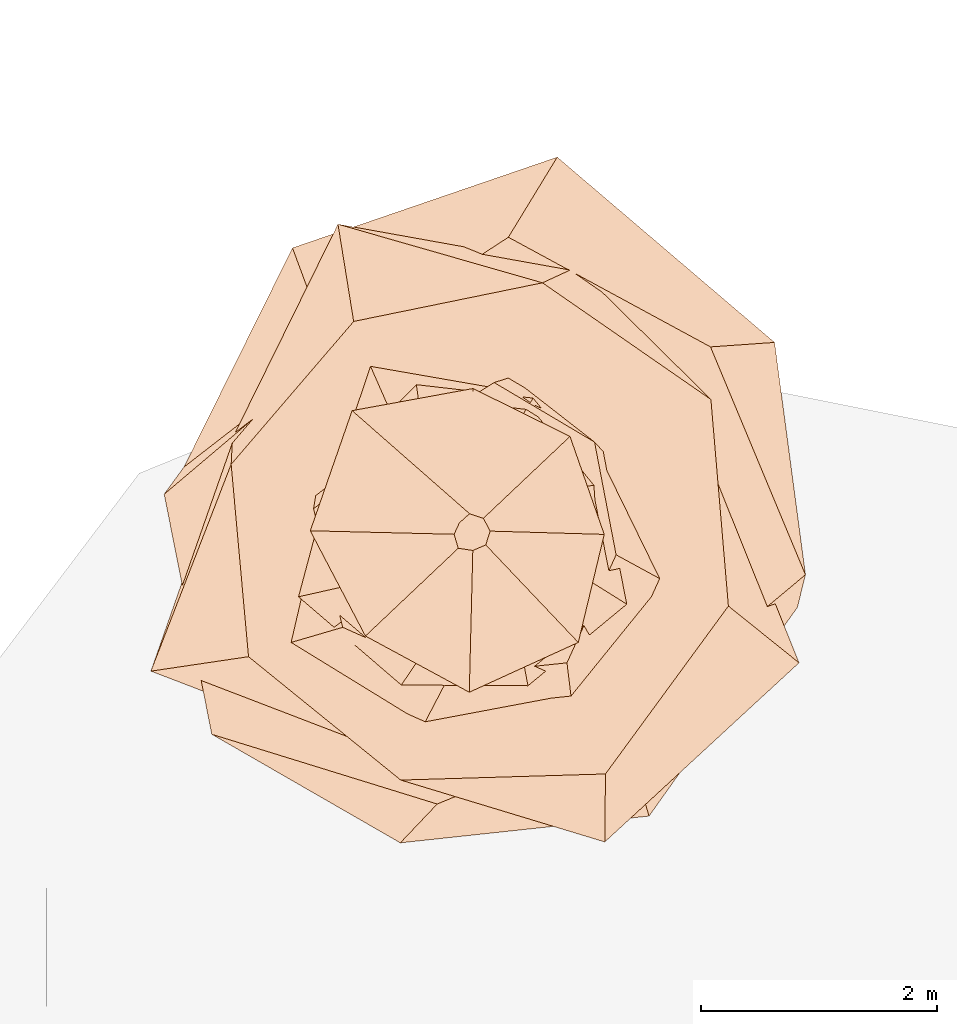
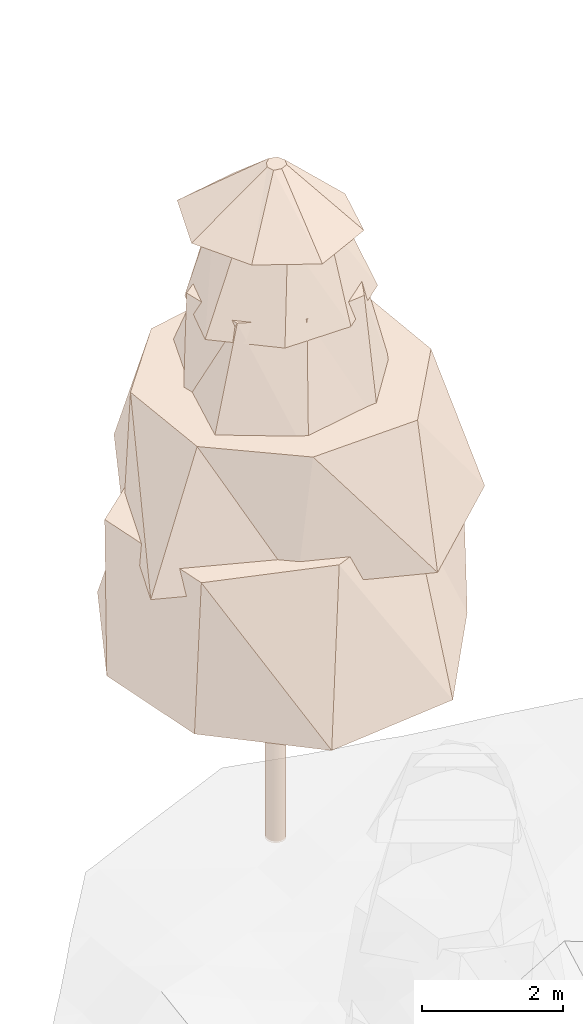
# Not in any storey, part 46 of 88: 1 geographic element.
"""IFC4 model written with IfcOpenShell, lengths in metres."""

import ifcopenshell
import ifcopenshell.guid

model = None  # the IFC model being written
_history = None  # IfcOwnerHistory: only IFC2X3 demands one
_inside = {}  # id of a spatial element -> (the spatial element, [elements in it])
_under = {}  # id of a project, library or spatial element -> (it, [spatial elements below it])
_declared = {}  # id of a project -> (the project, [libraries it declares])
_typed = {}  # id of a type object -> (the type object, [elements of that type])
_made_of = {}  # id of a material, layer set ... -> (it, [elements and type objects made of it])


def new_model(schema):
    """Start an empty IFC model of exactly this schema.

    Asked for "IFC4X3", IfcOpenShell would pick the latest addendum, in which some entities
    have other attributes; the version numbers below select the first issue.
    IFC2X3 requires an IfcOwnerHistory on every rooted entity: one is made here for all.
    """
    global model, _history
    if schema == "IFC4X3":
        model = ifcopenshell.file(schema_version=(4, 3, 0, 0))
    else:
        model = ifcopenshell.file(schema=schema)
    _inside.clear()
    _under.clear()
    _declared.clear()
    _typed.clear()
    _made_of.clear()
    _history = None
    if model.schema == "IFC2X3":
        org = make("IfcOrganization", Name="unknown")
        user = make(
            "IfcPersonAndOrganization",
            ThePerson=make("IfcPerson", FamilyName="unknown"),
            TheOrganization=org,
        )
        app = make(
            "IfcApplication",
            ApplicationDeveloper=org,
            Version="unknown",
            ApplicationFullName="unknown",
            ApplicationIdentifier="unknown",
        )
        _history = make(
            "IfcOwnerHistory",
            OwningUser=user,
            OwningApplication=app,
            ChangeAction="ADDED",
            CreationDate=0,
        )
    return model


def make(cls, **values):
    """One entity of the class cls with the attributes given. An attribute that is None is left unset."""
    return model.create_entity(
        cls, **{name: value for name, value in values.items() if value is not None}
    )


def rooted(cls, **values):
    """An entity with a GlobalId (a new one), such as an element, a storey or a relation."""
    return make(cls, GlobalId=ifcopenshell.guid.new(), OwnerHistory=_history, **values)


def si_unit(unit_type, name, prefix=None):
    """IfcSIUnit, for example si_unit("LENGTHUNIT", "METRE", prefix="MILLI")."""
    return make("IfcSIUnit", UnitType=unit_type, Prefix=prefix, Name=name)


def assignment(units):
    """IfcUnitAssignment: the units of a project."""
    return None if units is None else make("IfcUnitAssignment", Units=units)


def point(xyz):
    """IfcCartesianPoint."""
    return None if xyz is None else make("IfcCartesianPoint", Coordinates=xyz)


def direction(xyz):
    """IfcDirection."""
    return None if xyz is None else make("IfcDirection", DirectionRatios=xyz)


def frame(location, z_axis=None, x_axis=None):
    """IfcAxis2Placement3D, a coordinate frame: its origin and axes. An axis left out is left unset."""
    return make(
        "IfcAxis2Placement3D",
        Location=point(location),
        Axis=direction(z_axis),
        RefDirection=direction(x_axis),
    )


def origin_with_axes():
    """The frame at (0, 0, 0) with the z axis (0, 0, 1) and the x axis (1, 0, 0) written out."""
    return frame((0.0, 0.0, 0.0), z_axis=(0.0, 0.0, 1.0), x_axis=(1.0, 0.0, 0.0))


def place(relative_to, where):
    """IfcLocalPlacement: puts the frame where relative to a parent placement (None: the world)."""
    return make(
        "IfcLocalPlacement", PlacementRelTo=relative_to, RelativePlacement=where
    )


def context(
    kind, dimensions, precision=None, world=None, true_north=None, identifier=None
):
    """IfcGeometricRepresentationContext, for example the 3D "Model" context."""
    return make(
        "IfcGeometricRepresentationContext",
        ContextIdentifier=identifier,
        ContextType=kind,
        CoordinateSpaceDimension=dimensions,
        Precision=precision,
        WorldCoordinateSystem=world,
        TrueNorth=true_north,
    )


def subcontext(parent, identifier, kind, view, scale=None):
    """IfcGeometricRepresentationSubContext, for example "Body" below "Model"."""
    return make(
        "IfcGeometricRepresentationSubContext",
        ContextIdentifier=identifier,
        ContextType=kind,
        ParentContext=parent,
        TargetScale=scale,
        TargetView=view,
    )


def project(units=None, contexts=None):
    """IfcProject with its units and contexts."""
    return rooted(
        "IfcProject",
        Name="project",
        RepresentationContexts=contexts,
        UnitsInContext=assignment(units),
    )


def spatial(cls, under=None, at=None, **own):
    """A site, building, storey or space (cls), placed at a placement, below another one or the project."""
    s = rooted(cls, ObjectPlacement=at, **own)
    if under is not None:
        _under.setdefault(under.id(), (under, []))[1].append(s)
    return s


def profile(cls, at=None, kind="AREA", **sizes):
    """A parametric profile (cls). Its sizes go by their IFC names, for example OverallWidth=200.0."""
    return make(cls, ProfileType=kind, Position=at, **sizes)


def circle(**sizes):
    """IfcCircleProfileDef."""
    return profile("IfcCircleProfileDef", **sizes)


def extrude(swept, where, along, depth):
    """IfcExtrudedAreaSolid: the profile swept, set in the frame where, extruded along a direction by depth."""
    return make(
        "IfcExtrudedAreaSolid",
        SweptArea=swept,
        Position=where,
        ExtrudedDirection=direction(along),
        Depth=depth,
    )


def faces_of(points, faces, orient=None, outer=None):
    """IfcFace entities. A face is a list of loops; a loop is a list of indices into points, from 0.

    orient and outer hold one flag for each loop. By default every Orientation is true, the
    first loop of a face is its IfcFaceOuterBound and the others are IfcFaceBound.
    """
    made = []
    for i, loops in enumerate(faces):
        bounds = []
        for j, loop in enumerate(loops):
            is_outer = j == 0 if outer is None else outer[i][j]
            bounds.append(
                make(
                    "IfcFaceOuterBound" if is_outer else "IfcFaceBound",
                    Bound=make("IfcPolyLoop", Polygon=[points[k] for k in loop]),
                    Orientation=True if orient is None else orient[i][j],
                )
            )
        made.append(make("IfcFace", Bounds=bounds))
    return made


def faceted_brep(points, faces, orient=None, outer=None, voids=None):
    """IfcFacetedBrep: a solid bounded by flat faces; with voids (closed shells), ...WithVoids."""
    shared = [point(p) for p in points]
    hull = make("IfcClosedShell", CfsFaces=faces_of(shared, faces, orient, outer))
    if voids is None:
        return make("IfcFacetedBrep", Outer=hull)
    return make(
        "IfcFacetedBrepWithVoids",
        Outer=hull,
        Voids=[
            make(cls, CfsFaces=faces_of(shared, fs, o, b)) for cls, fs, o, b in voids
        ],
    )


def shape(context_of_items, identifier, shape_type, items):
    """IfcShapeRepresentation: the items that make up one representation, for example the "Body"."""
    return make(
        "IfcShapeRepresentation",
        ContextOfItems=context_of_items,
        RepresentationIdentifier=identifier,
        RepresentationType=shape_type,
        Items=items,
    )


def made_of(thing, what):
    """Note that an element or type object is made of a material, layer set ...; save() writes the relation."""
    if what is not None:
        _made_of.setdefault(what.id(), (what, []))[1].append(thing)
    return thing


def element(
    cls,
    number,
    at=None,
    inside=None,
    cuts=None,
    type_object=None,
    material=None,
    context=None,
    identifier="Body",
    shape_type=None,
    held_by="IfcProductDefinitionShape",
    body=None,
    shapes=None,
    **own,
):
    """One element of the class cls, such as IfcWall. Its Tag is "e" and its number.

    at: its placement. inside: the storey or other place that contains it. cuts: it is an
    opening in that element (IfcRelVoidsElement). A single representation is given by context,
    identifier, shape_type and body (its items); several are given by shapes. held_by: the class
    of the entity that holds the representations. save() writes the other relations.
    """
    e = rooted(cls, Tag="e%d" % number, ObjectPlacement=at, **own)
    if body is not None:
        shapes = [shape(context, identifier, shape_type, body)]
    if shapes is not None:
        e.Representation = make(held_by, Representations=shapes)
    if inside is not None:
        _inside.setdefault(inside.id(), (inside, []))[1].append(e)
    if cuts is not None:
        rooted(
            "IfcRelVoidsElement", RelatingBuildingElement=cuts, RelatedOpeningElement=e
        )
    if type_object is not None:
        _typed.setdefault(type_object.id(), (type_object, []))[1].append(e)
    return made_of(e, material)


def aggregate(whole, parts):
    """IfcRelAggregates: a whole, such as a stair, and the parts it consists of."""
    return rooted("IfcRelAggregates", RelatingObject=whole, RelatedObjects=parts)


def save(model, path):
    """Write the relations noted so far, then the file.

    IfcRelAggregates (storeys below a building ...), IfcRelContainedInSpatialStructure (elements
    in a storey), IfcRelDefinesByType, IfcRelAssociatesMaterial and IfcRelDeclares: one each for
    every whole, place, type object, material and project.
    """
    for whole, parts in _under.values():
        aggregate(whole, parts)
    for where, things in _inside.values():
        rooted(
            "IfcRelContainedInSpatialStructure",
            RelatedElements=things,
            RelatingStructure=where,
        )
    for kind, things in _typed.values():
        rooted("IfcRelDefinesByType", RelatedObjects=things, RelatingType=kind)
    for what, things in _made_of.values():
        rooted("IfcRelAssociatesMaterial", RelatedObjects=things, RelatingMaterial=what)
    for by, libraries in _declared.values():
        rooted("IfcRelDeclares", RelatingContext=by, RelatedDefinitions=libraries)
    model.write(path)


model = new_model("IFC4")

# Units and contexts
model_context = context("Model", 3, precision=1e-05, world=origin_with_axes())
body_context = subcontext(model_context, "Body", "Model", "MODEL_VIEW")
ifc_project = project(units=[si_unit("LENGTHUNIT", "METRE"), si_unit("AREAUNIT", "SQUARE_METRE"), si_unit("VOLUMEUNIT", "CUBIC_METRE"), si_unit("PLANEANGLEUNIT", "RADIAN")], contexts=[model_context])

# Sites
site_1_placement = place(None, origin_with_axes())
site_1 = spatial("IfcSite", under=ifc_project, at=site_1_placement, Name="CH907857693633", CompositionType="ELEMENT")
site_2_placement = place(None, origin_with_axes())
site_2 = spatial("IfcSite", under=site_1, at=site_2_placement, Name="Simulated_forest", CompositionType="ELEMENT")

# Geographic element
geographic_element_placement = place(None, frame((119.601188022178, 110.012706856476, 7.8746337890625), z_axis=(0.0, 0.0, 1.0), x_axis=(1.0, 0.0, 0.0)))
element("IfcGeographicElement", 1, at=geographic_element_placement, inside=site_2, Name="Tree_SIMULATED_WOODED_AREA", ObjectType="VEGETATION", PredefinedType="USERDEFINED", context=body_context, shape_type="Brep", body=[
    extrude(circle(Radius=0.15), origin_with_axes(), (0.0, 0.0, 1.0), 3.29238402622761),
    faceted_brep([(2.763879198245, -0.632404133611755, 3.29238402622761), (1.50688790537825, -2.4010688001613, 3.29238402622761), (-0.601325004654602, -2.62804998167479, 3.29238402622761), (-2.07714371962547, -1.3035956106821, 3.29238402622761), (-2.43481941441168, 0.557111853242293, 3.29238402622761), (-1.51513915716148, 2.41421630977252, 3.29238402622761), (0.728393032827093, 3.18339214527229, 3.29238402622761), (2.57036986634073, 1.61313964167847, 3.29238402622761), (2.02770267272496, 1.57520497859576, 6.18990870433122), (0.314552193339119, 2.50454868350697, 6.18990870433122), (-1.18526709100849, 1.5257501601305, 6.18990870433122), (-2.60237983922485, 0.326839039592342, 6.18990870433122), (-2.19876782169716, -1.70809560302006, 6.18990870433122), (-0.288734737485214, -2.29898319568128, 6.18990870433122), (1.28214560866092, -1.65045826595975, 6.18990870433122), (2.83228943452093, -0.355713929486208, 6.18990870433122), (2.57036986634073, 1.61313964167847, 3.29238402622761), (0.728393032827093, 3.18339214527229, 3.29238402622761), (0.314552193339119, 2.50454868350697, 6.18990870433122), (2.02770267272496, 1.57520497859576, 6.18990870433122), (0.728393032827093, 3.18339214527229, 3.29238402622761), (-1.51513915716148, 2.41421630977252, 3.29238402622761), (-1.18526709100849, 1.5257501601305, 6.18990870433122), (0.314552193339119, 2.50454868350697, 6.18990870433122), (-1.51513915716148, 2.41421630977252, 3.29238402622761), (-2.43481941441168, 0.557111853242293, 3.29238402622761), (-2.60237983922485, 0.326839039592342, 6.18990870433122), (-1.18526709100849, 1.5257501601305, 6.18990870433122), (-2.43481941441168, 0.557111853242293, 3.29238402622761), (-2.07714371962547, -1.3035956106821, 3.29238402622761), (-2.19876782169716, -1.70809560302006, 6.18990870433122), (-2.60237983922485, 0.326839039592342, 6.18990870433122), (-2.07714371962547, -1.3035956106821, 3.29238402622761), (-0.601325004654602, -2.62804998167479, 3.29238402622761), (-0.288734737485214, -2.29898319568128, 6.18990870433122), (-2.19876782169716, -1.70809560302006, 6.18990870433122), (-0.601325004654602, -2.62804998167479, 3.29238402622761), (1.50688790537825, -2.4010688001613, 3.29238402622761), (1.28214560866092, -1.65045826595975, 6.18990870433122), (-0.288734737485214, -2.29898319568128, 6.18990870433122), (1.50688790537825, -2.4010688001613, 3.29238402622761), (2.763879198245, -0.632404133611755, 3.29238402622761), (2.83228943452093, -0.355713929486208, 6.18990870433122), (1.28214560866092, -1.65045826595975, 6.18990870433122), (2.763879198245, -0.632404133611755, 3.29238402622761), (2.57036986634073, 1.61313964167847, 3.29238402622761), (2.02770267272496, 1.57520497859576, 6.18990870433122), (2.83228943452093, -0.355713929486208, 6.18990870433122)], [[[0, 1, 2, 3, 4, 5, 6, 7]], [[8, 9, 10, 11, 12, 13, 14, 15]], [[16, 17, 18, 19]], [[20, 21, 22, 23]], [[24, 25, 26, 27]], [[28, 29, 30, 31]], [[32, 33, 34, 35]], [[36, 37, 38, 39]], [[40, 41, 42, 43]], [[44, 45, 46, 47]]]),
    faceted_brep([(2.77778323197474, -1.10196685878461, 5.75528000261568), (1.13186404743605, -2.62042411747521, 5.75528000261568), (-0.762427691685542, -1.92188979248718, 5.75528000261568), (-2.71495404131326, -1.17269523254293, 5.75528000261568), (-2.02285670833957, 0.802482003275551, 5.75528000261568), (-1.12951282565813, 2.61498070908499, 5.75528000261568), (0.893366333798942, 2.2519534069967, 5.75528000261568), (1.99007604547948, 0.859591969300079, 5.75528000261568), (2.03087915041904, 1.12995454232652, 8.03406446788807), (0.603756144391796, 2.11823802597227, 8.03406446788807), (-0.996509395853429, 1.79103678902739, 8.03406446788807), (-2.03496234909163, 0.580020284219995, 8.03406446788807), (-1.88767955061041, -1.0502801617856, 8.03406446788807), (-0.597410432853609, -2.09597452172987, 8.03406446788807), (1.1373490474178, -2.04416937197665, 8.03406446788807), (2.17924316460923, -0.621144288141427, 8.03406446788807), (1.99007604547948, 0.859591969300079, 5.75528000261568), (0.893366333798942, 2.2519534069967, 5.75528000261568), (0.603756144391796, 2.11823802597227, 8.03406446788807), (2.03087915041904, 1.12995454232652, 8.03406446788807), (0.893366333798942, 2.2519534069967, 5.75528000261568), (-1.12951282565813, 2.61498070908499, 5.75528000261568), (-0.996509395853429, 1.79103678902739, 8.03406446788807), (0.603756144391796, 2.11823802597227, 8.03406446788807), (-1.12951282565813, 2.61498070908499, 5.75528000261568), (-2.02285670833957, 0.802482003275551, 5.75528000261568), (-2.03496234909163, 0.580020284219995, 8.03406446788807), (-0.996509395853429, 1.79103678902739, 8.03406446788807), (-2.02285670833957, 0.802482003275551, 5.75528000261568), (-2.71495404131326, -1.17269523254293, 5.75528000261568), (-1.88767955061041, -1.0502801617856, 8.03406446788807), (-2.03496234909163, 0.580020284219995, 8.03406446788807), (-2.71495404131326, -1.17269523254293, 5.75528000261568), (-0.762427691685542, -1.92188979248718, 5.75528000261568), (-0.597410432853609, -2.09597452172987, 8.03406446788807), (-1.88767955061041, -1.0502801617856, 8.03406446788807), (-0.762427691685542, -1.92188979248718, 5.75528000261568), (1.13186404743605, -2.62042411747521, 5.75528000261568), (1.1373490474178, -2.04416937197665, 8.03406446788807), (-0.597410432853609, -2.09597452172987, 8.03406446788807), (1.13186404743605, -2.62042411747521, 5.75528000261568), (2.77778323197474, -1.10196685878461, 5.75528000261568), (2.17924316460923, -0.621144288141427, 8.03406446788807), (1.1373490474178, -2.04416937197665, 8.03406446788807), (2.77778323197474, -1.10196685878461, 5.75528000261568), (1.99007604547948, 0.859591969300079, 5.75528000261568), (2.03087915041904, 1.12995454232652, 8.03406446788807), (2.17924316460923, -0.621144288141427, 8.03406446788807)], [[[0, 1, 2, 3, 4, 5, 6, 7]], [[8, 9, 10, 11, 12, 13, 14, 15]], [[16, 17, 18, 19]], [[20, 21, 22, 23]], [[24, 25, 26, 27]], [[28, 29, 30, 31]], [[32, 33, 34, 35]], [[36, 37, 38, 39]], [[40, 41, 42, 43]], [[44, 45, 46, 47]]]),
    faceted_brep([(1.67113982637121, -0.428743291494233, 7.69224679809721), (0.852333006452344, -1.44060261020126, 7.69224679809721), (-0.431498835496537, -1.68188028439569, 7.69224679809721), (-1.61472759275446, -0.955354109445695, 7.69224679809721), (-1.31453218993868, 0.337252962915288, 7.69224679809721), (-0.908647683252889, 1.53578497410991, 7.69224679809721), (0.338330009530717, 1.31873026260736, 7.69224679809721), (1.13371868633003, 0.670765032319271, 7.69224679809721), (1.04494101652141, 0.768716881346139, 9.73072963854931), (0.193891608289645, 1.27307140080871, 9.73072963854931), (-0.579699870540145, 0.788004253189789, 9.73072963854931), (-1.336769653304, 0.203592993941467, 9.73072963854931), (-1.08931655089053, -0.801361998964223, 9.73072963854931), (-0.183761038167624, -1.20655516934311, 9.73072963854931), (0.81109314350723, -1.10254440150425, 9.73072963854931), (1.22768380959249, -0.186978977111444, 9.73072963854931), (1.13371868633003, 0.670765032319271, 7.69224679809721), (0.338330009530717, 1.31873026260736, 7.69224679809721), (0.193891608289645, 1.27307140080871, 9.73072963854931), (1.04494101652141, 0.768716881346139, 9.73072963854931), (0.338330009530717, 1.31873026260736, 7.69224679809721), (-0.908647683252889, 1.53578497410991, 7.69224679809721), (-0.579699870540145, 0.788004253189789, 9.73072963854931), (0.193891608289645, 1.27307140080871, 9.73072963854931), (-0.908647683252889, 1.53578497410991, 7.69224679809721), (-1.31453218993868, 0.337252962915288, 7.69224679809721), (-1.336769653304, 0.203592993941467, 9.73072963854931), (-0.579699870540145, 0.788004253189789, 9.73072963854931), (-1.31453218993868, 0.337252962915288, 7.69224679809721), (-1.61472759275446, -0.955354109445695, 7.69224679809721), (-1.08931655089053, -0.801361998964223, 9.73072963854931), (-1.336769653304, 0.203592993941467, 9.73072963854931), (-1.61472759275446, -0.955354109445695, 7.69224679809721), (-0.431498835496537, -1.68188028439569, 7.69224679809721), (-0.183761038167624, -1.20655516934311, 9.73072963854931), (-1.08931655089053, -0.801361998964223, 9.73072963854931), (-0.431498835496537, -1.68188028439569, 7.69224679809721), (0.852333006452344, -1.44060261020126, 7.69224679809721), (0.81109314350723, -1.10254440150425, 9.73072963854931), (-0.183761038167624, -1.20655516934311, 9.73072963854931), (0.852333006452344, -1.44060261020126, 7.69224679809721), (1.67113982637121, -0.428743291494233, 7.69224679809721), (1.22768380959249, -0.186978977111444, 9.73072963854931), (0.81109314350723, -1.10254440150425, 9.73072963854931), (1.67113982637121, -0.428743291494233, 7.69224679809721), (1.13371868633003, 0.670765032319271, 7.69224679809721), (1.04494101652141, 0.768716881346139, 9.73072963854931), (1.22768380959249, -0.186978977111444, 9.73072963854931)], [[[0, 1, 2, 3, 4, 5, 6, 7]], [[8, 9, 10, 11, 12, 13, 14, 15]], [[16, 17, 18, 19]], [[20, 21, 22, 23]], [[24, 25, 26, 27]], [[28, 29, 30, 31]], [[32, 33, 34, 35]], [[36, 37, 38, 39]], [[40, 41, 42, 43]], [[44, 45, 46, 47]]]),
    faceted_brep([(1.31806095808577, -0.605219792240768, 9.42495721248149), (0.480577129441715, -1.29662088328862, 9.42495721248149), (-0.592446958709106, -1.29024400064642, 9.42495721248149), (-1.46378540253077, -0.542534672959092, 9.42495721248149), (-1.17422510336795, 0.539174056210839, 9.42495721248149), (-0.465178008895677, 1.25507329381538, 9.42495721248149), (0.523993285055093, 1.14116408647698, 9.42495721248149), (1.11703706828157, 0.414016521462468, 9.42495721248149), (0.730735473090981, 0.35744930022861, 10.9408243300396), (0.229111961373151, 0.667895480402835, 10.9408243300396), (-0.405091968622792, 0.828131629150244, 10.9408243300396), (-0.839402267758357, 0.287944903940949, 10.9408243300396), (-0.809349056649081, -0.395904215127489, 10.9408243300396), (-0.288847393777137, -0.842033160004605, 10.9408243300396), (0.385224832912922, -0.787517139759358, 10.9408243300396), (0.77648278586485, -0.266361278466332, 10.9408243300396), (1.11703706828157, 0.414016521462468, 9.42495721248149), (0.523993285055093, 1.14116408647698, 9.42495721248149), (0.229111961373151, 0.667895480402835, 10.9408243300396), (0.730735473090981, 0.35744930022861, 10.9408243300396), (0.523993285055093, 1.14116408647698, 9.42495721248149), (-0.465178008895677, 1.25507329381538, 9.42495721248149), (-0.405091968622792, 0.828131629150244, 10.9408243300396), (0.229111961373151, 0.667895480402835, 10.9408243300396), (-0.465178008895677, 1.25507329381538, 9.42495721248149), (-1.17422510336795, 0.539174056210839, 9.42495721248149), (-0.839402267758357, 0.287944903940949, 10.9408243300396), (-0.405091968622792, 0.828131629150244, 10.9408243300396), (-1.17422510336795, 0.539174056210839, 9.42495721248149), (-1.46378540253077, -0.542534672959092, 9.42495721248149), (-0.809349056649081, -0.395904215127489, 10.9408243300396), (-0.839402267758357, 0.287944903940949, 10.9408243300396), (-1.46378540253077, -0.542534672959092, 9.42495721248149), (-0.592446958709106, -1.29024400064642, 9.42495721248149), (-0.288847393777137, -0.842033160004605, 10.9408243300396), (-0.809349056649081, -0.395904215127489, 10.9408243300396), (-0.592446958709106, -1.29024400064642, 9.42495721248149), (0.480577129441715, -1.29662088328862, 9.42495721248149), (0.385224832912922, -0.787517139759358, 10.9408243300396), (-0.288847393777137, -0.842033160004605, 10.9408243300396), (0.480577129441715, -1.29662088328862, 9.42495721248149), (1.31806095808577, -0.605219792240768, 9.42495721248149), (0.77648278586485, -0.266361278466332, 10.9408243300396), (0.385224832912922, -0.787517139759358, 10.9408243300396), (1.31806095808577, -0.605219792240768, 9.42495721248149), (1.11703706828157, 0.414016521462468, 9.42495721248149), (0.730735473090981, 0.35744930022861, 10.9408243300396), (0.77648278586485, -0.266361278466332, 10.9408243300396)], [[[0, 1, 2, 3, 4, 5, 6, 7]], [[8, 9, 10, 11, 12, 13, 14, 15]], [[16, 17, 18, 19]], [[20, 21, 22, 23]], [[24, 25, 26, 27]], [[28, 29, 30, 31]], [[32, 33, 34, 35]], [[36, 37, 38, 39]], [[40, 41, 42, 43]], [[44, 45, 46, 47]]]),
    faceted_brep([(1.12706501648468, -0.0138544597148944, 10.7134442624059), (0.906908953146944, -0.929482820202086, 10.7134442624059), (-0.0166125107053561, -1.35143340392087, 10.7134442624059), (-0.896926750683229, -0.875143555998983, 10.7134442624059), (-1.3642131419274, 0.0167696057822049, 10.7134442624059), (-1.00983093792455, 1.03496663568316, 10.7134442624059), (0.0150267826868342, 1.22243388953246, 10.7134442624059), (0.836630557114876, 0.816311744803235, 10.7134442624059), (0.102779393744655, 0.122597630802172, 11.6212145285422), (-0.0142115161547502, 0.161616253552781, 11.6212145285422), (-0.100493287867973, 0.0842482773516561, 11.6212145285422), (-0.145239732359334, -0.012771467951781, 11.6212145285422), (-0.110135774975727, -0.131372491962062, 11.6212145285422), (0.0131868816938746, -0.149963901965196, 11.6212145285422), (0.122972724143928, -0.103093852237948, 11.6212145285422), (0.160041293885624, 0.014073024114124, 11.6212145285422), (0.836630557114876, 0.816311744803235, 10.7134442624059), (0.0150267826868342, 1.22243388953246, 10.7134442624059), (-0.0142115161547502, 0.161616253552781, 11.6212145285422), (0.102779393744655, 0.122597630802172, 11.6212145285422), (0.0150267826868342, 1.22243388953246, 10.7134442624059), (-1.00983093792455, 1.03496663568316, 10.7134442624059), (-0.100493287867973, 0.0842482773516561, 11.6212145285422), (-0.0142115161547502, 0.161616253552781, 11.6212145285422), (-1.00983093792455, 1.03496663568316, 10.7134442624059), (-1.3642131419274, 0.0167696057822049, 10.7134442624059), (-0.145239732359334, -0.012771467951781, 11.6212145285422), (-0.100493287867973, 0.0842482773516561, 11.6212145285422), (-1.3642131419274, 0.0167696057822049, 10.7134442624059), (-0.896926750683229, -0.875143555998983, 10.7134442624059), (-0.110135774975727, -0.131372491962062, 11.6212145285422), (-0.145239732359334, -0.012771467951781, 11.6212145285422), (-0.896926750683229, -0.875143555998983, 10.7134442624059), (-0.0166125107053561, -1.35143340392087, 10.7134442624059), (0.0131868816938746, -0.149963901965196, 11.6212145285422), (-0.110135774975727, -0.131372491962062, 11.6212145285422), (-0.0166125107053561, -1.35143340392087, 10.7134442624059), (0.906908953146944, -0.929482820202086, 10.7134442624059), (0.122972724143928, -0.103093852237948, 11.6212145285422), (0.0131868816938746, -0.149963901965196, 11.6212145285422), (0.906908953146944, -0.929482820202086, 10.7134442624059), (1.12706501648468, -0.0138544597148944, 10.7134442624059), (0.160041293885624, 0.014073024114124, 11.6212145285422), (0.122972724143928, -0.103093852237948, 11.6212145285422), (1.12706501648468, -0.0138544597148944, 10.7134442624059), (0.836630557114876, 0.816311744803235, 10.7134442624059), (0.102779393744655, 0.122597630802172, 11.6212145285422), (0.160041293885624, 0.014073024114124, 11.6212145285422)], [[[0, 1, 2, 3, 4, 5, 6, 7]], [[8, 9, 10, 11, 12, 13, 14, 15]], [[16, 17, 18, 19]], [[20, 21, 22, 23]], [[24, 25, 26, 27]], [[28, 29, 30, 31]], [[32, 33, 34, 35]], [[36, 37, 38, 39]], [[40, 41, 42, 43]], [[44, 45, 46, 47]]]),
])

save(model, "model.ifc")
